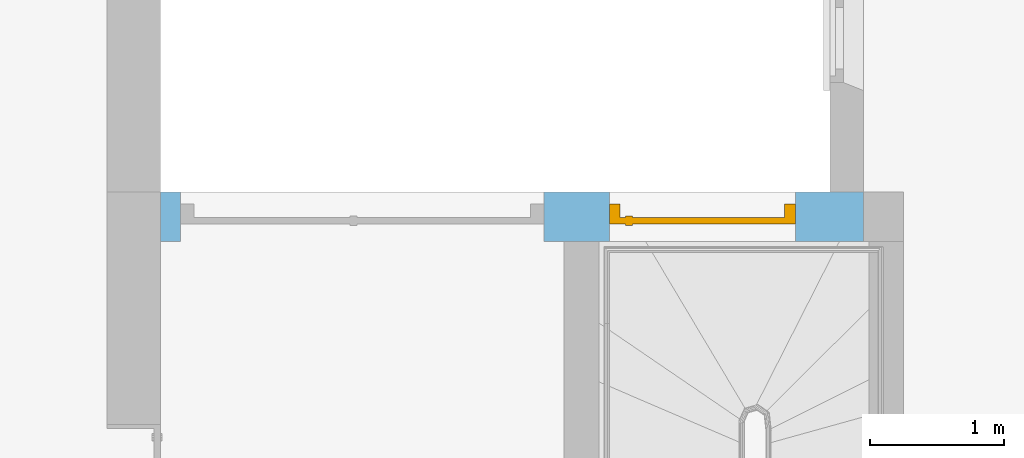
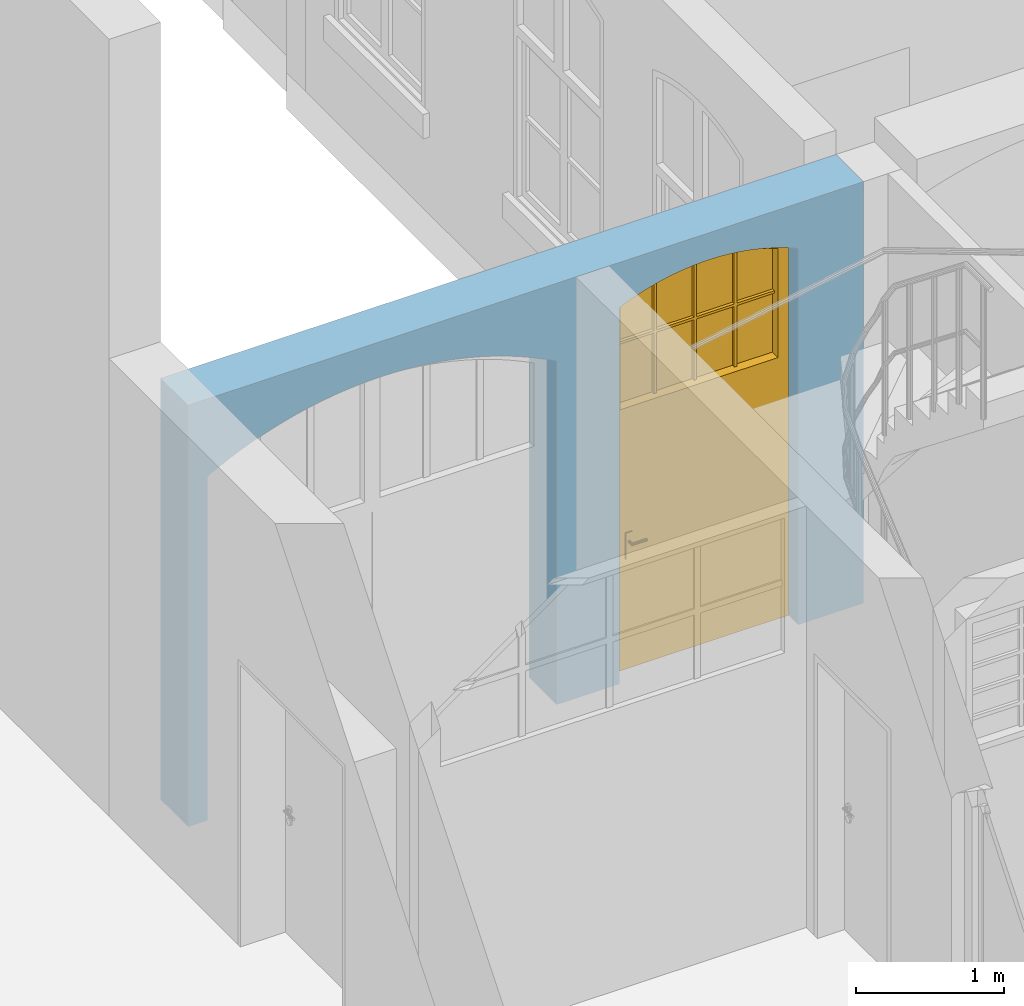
"""IFC4 building model written with IfcOpenShell, lengths in metres."""

from ifc_helpers import new_model, entity, si_unit, converted_unit, derived_unit, frame, frame_2d, origin, origin_with_axes, place, context, subcontext, project, spatial, polyline, rectangle, outline, extrude, closed_shell, open_shell, surface_model, source, transform, mapped, material, layer, layer_set, layer_usage, type_object, element, fill, save


model = new_model("IFC4")

# Units and contexts
model_context = context("Model", 3, precision=1e-05, world=origin())
body_context = subcontext(model_context, "Body", "Model", "MODEL_VIEW")
ifc_project = project(units=[si_unit("LENGTHUNIT", "METRE"), si_unit("AREAUNIT", "SQUARE_METRE"), si_unit("VOLUMEUNIT", "CUBIC_METRE"), si_unit("MASSUNIT", "GRAM", prefix="KILO"), converted_unit("PLANEANGLEUNIT", "DEGREE", entity("IfcPlaneAngleMeasure", 0.0174532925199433), si_unit("PLANEANGLEUNIT", "RADIAN"), dimensions=[0, 0, 0, 0, 0, 0, 0]), derived_unit("THERMALTRANSMITTANCEUNIT", [(si_unit("POWERUNIT", "WATT"), 1), (si_unit("THERMODYNAMICTEMPERATUREUNIT", "KELVIN"), -1), (si_unit("LENGTHUNIT", "METRE"), -2)]), derived_unit("VOLUMETRICFLOWRATEUNIT", [(si_unit("LENGTHUNIT", "METRE"), 3), (converted_unit("TIMEUNIT", "hour", entity("IfcTimeMeasure", 3600.0), si_unit("TIMEUNIT", "SECOND"), dimensions=[0, 0, 1, 0, 0, 0, 0]), -1), (si_unit("LENGTHUNIT", "METRE"), -1)])], contexts=[model_context])

# Building, storeys
building_placement = place(None, origin())
building = spatial("IfcBuilding", under=ifc_project, at=building_placement, Name="Bestandsgebäude A - Sporthalle / Wohnhaus (TB 100-499)   ANPASSEN !!!", CompositionType="ELEMENT")
storey_1_placement = place(building_placement, origin())
storey_1 = spatial("IfcBuildingStorey", under=building, at=storey_1_placement, Name="Geb. A Erdgeschoss (TB 200-249)", CompositionType="ELEMENT", Elevation=0.0)
storey_2_placement = place(storey_1_placement, origin())
storey_2 = spatial("IfcBuildingStorey", under=storey_1, at=storey_2_placement, Name="Architektur (TB 200-209)", CompositionType="PARTIAL")

# Wall, openings, door
ifc_material = material(Name="concrete")
ifc_layer = layer(ifc_material, 0.37)
ifc_layer_set = layer_set([ifc_layer])
ifc_layer_usage = layer_usage(ifc_layer_set, "AXIS2", "POSITIVE", 0.0)
wall_placement = place(storey_2_placement, frame((-3.24000000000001, 9.25, 0.0), z_axis=(0.0, 0.0, 1.0), x_axis=(-1.0, 0.0, 0.0)))
wall = element("IfcWall", 1, at=wall_placement, inside=storey_2, material=ifc_layer_usage, Name="reinforced - bearing", PredefinedType="USERDEFINED", context=body_context, shape_type="SweptSolid", body=[
    extrude(rectangle(XDim=5.25999999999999, YDim=0.37, at=frame_2d((2.62999999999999, 0.185), x_axis=(1.0, 0.0))), origin_with_axes(), (0.0, 0.0, 1.0), 3.47),
])
opening_1_placement = place(wall_placement, frame((0.509999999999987, 0.0, 0.0), z_axis=(0.0, 1.0, 0.0), x_axis=(0.0, 0.0, 1.0)))
opening_1 = element("IfcOpeningElement", 2, at=opening_1_placement, cuts=wall, Name="Door opening", PredefinedType="OPENING", context=body_context, shape_type="SweptSolid", body=[
    extrude(outline(polyline([(3.1, 1.39), (3.11907870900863, 1.34621900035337), (3.13690907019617, 1.30191492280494), (3.15347676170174, 1.25712335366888), (3.16876847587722, 1.21188027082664), (3.18277192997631, 1.16622201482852), (3.19547587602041, 1.12018525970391), (3.20687010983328, 1.0738069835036), (3.21694547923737, 1.02712443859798), (3.2256938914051, 0.98017512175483), (3.23310831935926, 0.932996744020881), (3.23918280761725, 0.885627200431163), (3.24391247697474, 0.838104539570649), (3.24729352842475, 0.79046693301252), (3.24932324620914, 0.742752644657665), (3.25, 0.695), (3.24932324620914, 0.647247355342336), (3.24729352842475, 0.59953306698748), (3.24391247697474, 0.551895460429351), (3.23918280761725, 0.504372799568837), (3.23310831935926, 0.45700325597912), (3.2256938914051, 0.40982487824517), (3.21694547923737, 0.362875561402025), (3.20687010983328, 0.316193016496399), (3.19547587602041, 0.269814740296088), (3.18277192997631, 0.223777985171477), (3.16876847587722, 0.178119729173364), (3.15347676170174, 0.132876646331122), (3.13690907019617, 0.0880850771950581), (3.11907870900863, 0.0437809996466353), (3.1, 0.0), (0.0, 0.0), (0.0, 1.39), (3.1, 1.39)])), origin_with_axes(), (0.0, 0.0, 1.0), 0.37),
])
opening_2_placement = place(wall_placement, frame((2.38999999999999, 0.0, 0.0), z_axis=(0.0, 1.0, 0.0), x_axis=(0.0, 0.0, 1.0)))
element("IfcOpeningElement", 3, at=opening_2_placement, cuts=wall, Name="Door opening", PredefinedType="OPENING", context=body_context, shape_type="SweptSolid", body=[
    extrude(outline(polyline([(2.83, 2.72), (2.87427557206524, 2.63638501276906), (2.9157185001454, 2.55133046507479), (2.95428204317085, 2.46493228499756), (2.989922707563, 2.37728791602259), (3.02260029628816, 2.28849620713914), (3.05227795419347, 2.19865730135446), (3.07892220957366, 2.1078725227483), (3.10250301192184, 2.0162442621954), (3.12299376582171, 1.92387586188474), (3.14037136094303, 1.83087149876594), (3.15461619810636, 1.73733606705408), (3.16571221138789, 1.64337505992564), (3.1736468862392, 1.54909445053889), (3.17841127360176, 1.45460057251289), (3.18, 1.36), (3.17841127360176, 1.26539942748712), (3.1736468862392, 1.17090554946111), (3.16571221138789, 1.07662494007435), (3.15461619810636, 0.982663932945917), (3.14037136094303, 0.889128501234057), (3.12299376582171, 0.796124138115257), (3.10250301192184, 0.703755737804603), (3.07892220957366, 0.612127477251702), (3.05227795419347, 0.521342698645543), (3.02260029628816, 0.431503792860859), (2.989922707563, 0.342712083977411), (2.95428204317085, 0.255067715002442), (2.9157185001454, 0.168669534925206), (2.87427557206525, 0.0836149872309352), (2.83, 0.0), (0.0, 0.0), (0.0, 2.72), (2.83, 2.72)])), origin_with_axes(), (0.0, 0.0, 1.0), 0.37),
])
door_type = type_object("IfcDoorType", Name="1l white blockframe", OperationType="SINGLE_SWING_LEFT", ParameterTakesPrecedence=False, PredefinedType="DOOR")
shared_shape = source(origin_with_axes(), body_context, "Body", "SurfaceModel", [
    surface_model("IfcShellBasedSurfaceModel", [(0.0437809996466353, 0.15, 3.11907870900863), (0.0, 0.15, 3.1), (0.0, 0.15, 0.0), (0.08, 0.15, 0.0), (0.08, 0.15, 3.04741945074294), (0.116901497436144, 0.15, 3.06227061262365), (0.159566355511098, 0.15, 3.07805166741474), (0.202661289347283, 0.15, 3.09261732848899), (0.246151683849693, 0.15, 3.10595589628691), (0.290002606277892, 0.15, 3.11805665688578), (0.334178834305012, 0.15, 3.12890989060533), (0.37864488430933, 0.15, 3.13850687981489), (0.42336503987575, 0.15, 3.14683991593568), (0.468303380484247, 0.15, 3.1539023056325), (0.513423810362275, 0.15, 3.15968837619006), (0.558690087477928, 0.15, 3.16419348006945), (0.604065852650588, 0.15, 3.16741399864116), (0.649514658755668, 0.15, 3.1693473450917), (0.695, 0.15, 3.16999196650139), (0.740485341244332, 0.15, 3.1693473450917), (0.785934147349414, 0.15, 3.16741399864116), (0.831309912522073, 0.15, 3.16419348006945), (0.876576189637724, 0.15, 3.15968837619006), (0.921696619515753, 0.15, 3.1539023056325), (0.966634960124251, 0.15, 3.14683991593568), (1.01135511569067, 0.15, 3.13850687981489), (1.05582116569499, 0.15, 3.12890989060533), (1.09999739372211, 0.15, 3.11805665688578), (1.14384831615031, 0.15, 3.10595589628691), (1.18733871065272, 0.15, 3.09261732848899), (1.2304336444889, 0.15, 3.07805166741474), (1.27309850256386, 0.15, 3.06227061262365), (1.31, 0.15, 3.04741945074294), (1.31, 0.15, 0.0), (1.39, 0.15, 0.0), (1.39, 0.15, 3.1), (1.34621900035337, 0.15, 3.11907870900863), (1.30191492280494, 0.15, 3.13690907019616), (1.25712335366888, 0.15, 3.15347676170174), (1.21188027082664, 0.15, 3.16876847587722), (1.16622201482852, 0.15, 3.18277192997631), (1.12018525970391, 0.15, 3.19547587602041), (1.0738069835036, 0.15, 3.20687010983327), (1.02712443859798, 0.15, 3.21694547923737), (0.980175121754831, 0.15, 3.2256938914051), (0.93299674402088, 0.15, 3.23310831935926), (0.885627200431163, 0.15, 3.23918280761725), (0.83810453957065, 0.15, 3.24391247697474), (0.790466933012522, 0.15, 3.24729352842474), (0.742752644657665, 0.15, 3.24932324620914), (0.695, 0.15, 3.25), (0.647247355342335, 0.15, 3.24932324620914), (0.599533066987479, 0.15, 3.24729352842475), (0.551895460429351, 0.15, 3.24391247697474), (0.504372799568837, 0.15, 3.23918280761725), (0.457003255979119, 0.15, 3.23310831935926), (0.40982487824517, 0.15, 3.2256938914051), (0.362875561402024, 0.15, 3.21694547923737), (0.316193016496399, 0.15, 3.20687010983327), (0.269814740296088, 0.15, 3.19547587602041), (0.223777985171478, 0.15, 3.18277192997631), (0.178119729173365, 0.15, 3.16876847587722), (0.132876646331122, 0.15, 3.15347676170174), (0.0880850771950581, 0.15, 3.13690907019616), (0.0, 0.0, 3.1), (0.0437809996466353, 0.0, 3.11907870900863), (0.0880850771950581, 0.0, 3.13690907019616), (0.132876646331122, 0.0, 3.15347676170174), (0.178119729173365, 0.0, 3.16876847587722), (0.223777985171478, 0.0, 3.18277192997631), (0.269814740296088, 0.0, 3.19547587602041), (0.316193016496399, 0.0, 3.20687010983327), (0.362875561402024, 0.0, 3.21694547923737), (0.40982487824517, 0.0, 3.2256938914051), (0.457003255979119, 0.0, 3.23310831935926), (0.504372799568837, 0.0, 3.23918280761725), (0.551895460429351, 0.0, 3.24391247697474), (0.599533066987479, 0.0, 3.24729352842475), (0.647247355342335, 0.0, 3.24932324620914), (0.695, 0.0, 3.25), (0.742752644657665, 0.0, 3.24932324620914), (0.790466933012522, 0.0, 3.24729352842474), (0.83810453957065, 0.0, 3.24391247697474), (0.885627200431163, 0.0, 3.23918280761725), (0.93299674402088, 0.0, 3.23310831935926), (0.980175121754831, 0.0, 3.2256938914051), (1.02712443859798, 0.0, 3.21694547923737), (1.0738069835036, 0.0, 3.20687010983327), (1.12018525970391, 0.0, 3.19547587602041), (1.16622201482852, 0.0, 3.18277192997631), (1.21188027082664, 0.0, 3.16876847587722), (1.25712335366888, 0.0, 3.15347676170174), (1.30191492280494, 0.0, 3.13690907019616), (1.34621900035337, 0.0, 3.11907870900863), (1.39, 0.0, 3.1), (1.39, 0.0, 0.0), (1.31, 0.0, 0.0), (1.31, 0.0, 3.04741945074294), (1.27309850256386, 0.0, 3.06227061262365), (1.2304336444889, 0.0, 3.07805166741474), (1.18733871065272, 0.0, 3.09261732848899), (1.14384831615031, 0.0, 3.10595589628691), (1.09999739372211, 0.0, 3.11805665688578), (1.05582116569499, 0.0, 3.12890989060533), (1.01135511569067, 0.0, 3.13850687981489), (0.966634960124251, 0.0, 3.14683991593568), (0.921696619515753, 0.0, 3.1539023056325), (0.876576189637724, 0.0, 3.15968837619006), (0.831309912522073, 0.0, 3.16419348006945), (0.785934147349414, 0.0, 3.16741399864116), (0.740485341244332, 0.0, 3.1693473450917), (0.695, 0.0, 3.16999196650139), (0.649514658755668, 0.0, 3.1693473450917), (0.604065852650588, 0.0, 3.16741399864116), (0.558690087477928, 0.0, 3.16419348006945), (0.513423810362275, 0.0, 3.15968837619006), (0.468303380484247, 0.0, 3.1539023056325), (0.42336503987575, 0.0, 3.14683991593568), (0.37864488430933, 0.0, 3.13850687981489), (0.334178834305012, 0.0, 3.12890989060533), (0.290002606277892, 0.0, 3.11805665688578), (0.246151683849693, 0.0, 3.10595589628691), (0.202661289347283, 0.0, 3.09261732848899), (0.159566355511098, 0.0, 3.07805166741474), (0.116901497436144, 0.0, 3.06227061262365), (0.08, 0.0, 3.04741945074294), (0.08, 0.0, 0.0), (0.0, 0.0, 0.0)], [closed_shell([[[0, 1, 2, 3, 4, 5, 6, 7, 8, 9, 10, 11, 12, 13, 14, 15, 16, 17, 18, 19, 20, 21, 22, 23, 24, 25, 26, 27, 28, 29, 30, 31, 32, 33, 34, 35, 36, 37, 38, 39, 40, 41, 42, 43, 44, 45, 46, 47, 48, 49, 50, 51, 52, 53, 54, 55, 56, 57, 58, 59, 60, 61, 62, 63]], [[64, 65, 66, 67, 68, 69, 70, 71, 72, 73, 74, 75, 76, 77, 78, 79, 80, 81, 82, 83, 84, 85, 86, 87, 88, 89, 90, 91, 92, 93, 94, 95, 96, 97, 98, 99, 100, 101, 102, 103, 104, 105, 106, 107, 108, 109, 110, 111, 112, 113, 114, 115, 116, 117, 118, 119, 120, 121, 122, 123, 124, 125, 126, 127]], [[1, 0, 65, 64]], [[2, 1, 64, 127]], [[34, 33, 96, 95]], [[126, 3, 2, 127]], [[35, 34, 95, 94]], [[36, 35, 94, 93]], [[37, 36, 93, 92]], [[38, 37, 92, 91]], [[39, 38, 91, 90]], [[40, 39, 90, 89]], [[41, 40, 89, 88]], [[42, 41, 88, 87]], [[43, 42, 87, 86]], [[44, 43, 86, 85]], [[45, 44, 85, 84]], [[46, 45, 84, 83]], [[47, 46, 83, 82]], [[48, 47, 82, 81]], [[49, 48, 81, 80]], [[50, 49, 80, 79]], [[51, 50, 79, 78]], [[52, 51, 78, 77]], [[53, 52, 77, 76]], [[54, 53, 76, 75]], [[55, 54, 75, 74]], [[56, 55, 74, 73]], [[57, 56, 73, 72]], [[58, 57, 72, 71]], [[59, 58, 71, 70]], [[60, 59, 70, 69]], [[61, 60, 69, 68]], [[62, 61, 68, 67]], [[63, 62, 67, 66]], [[0, 63, 66, 65]], [[4, 125, 124, 5]], [[3, 126, 125, 4]], [[32, 97, 96, 33]], [[31, 98, 97, 32]], [[30, 99, 98, 31]], [[29, 100, 99, 30]], [[28, 101, 100, 29]], [[27, 102, 101, 28]], [[26, 103, 102, 27]], [[25, 104, 103, 26]], [[24, 105, 104, 25]], [[23, 106, 105, 24]], [[22, 107, 106, 23]], [[21, 108, 107, 22]], [[20, 109, 108, 21]], [[19, 110, 109, 20]], [[18, 111, 110, 19]], [[17, 112, 111, 18]], [[16, 113, 112, 17]], [[15, 114, 113, 16]], [[14, 115, 114, 15]], [[13, 116, 115, 14]], [[12, 117, 116, 13]], [[11, 118, 117, 12]], [[10, 119, 118, 11]], [[9, 120, 119, 10]], [[8, 121, 120, 9]], [[7, 122, 121, 8]], [[6, 123, 122, 7]], [[5, 124, 123, 6]]], orient=[[False], [False], [False], [False], [False], [False], [False], [False], [False], [False], [False], [False], [False], [False], [False], [False], [False], [False], [False], [False], [False], [False], [False], [False], [False], [False], [False], [False], [False], [False], [False], [False], [False], [False], [False], [False], [False], [False], [False], [False], [False], [False], [False], [False], [False], [False], [False], [False], [False], [False], [False], [False], [False], [False], [False], [False], [False], [False], [False], [False], [False], [False], [False], [False], [False], [False]])]),
    surface_model("IfcShellBasedSurfaceModel", [(0.08, 0.15, 2.15000000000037), (0.08, 0.15, 1.95000000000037), (1.31, 0.15, 1.95000000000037), (1.31, 0.15, 2.15000000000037), (0.08, 0.0, 1.95000000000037), (0.08, 0.0, 2.15000000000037), (1.31, 0.0, 2.15000000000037), (1.31, 0.0, 1.95000000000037)], [closed_shell([[[0, 1, 2, 3]], [[4, 5, 6, 7]], [[1, 0, 5, 4]], [[2, 1, 4, 7]], [[3, 2, 7, 6]], [[0, 3, 6, 5]]], orient=[[False], [False], [False], [False], [False], [False]])]),
    surface_model("IfcShellBasedSurfaceModel", [(1.31, 0.15, 1.95000000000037), (0.08, 0.15, 1.95000000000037), (0.08, 0.15, 0.0), (1.31, 0.15, 0.0), (0.08, 0.1, 1.95000000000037), (1.31, 0.1, 1.95000000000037), (1.31, 0.1, 0.0), (0.08, 0.1, 0.0)], [closed_shell([[[0, 1, 2, 3]], [[4, 5, 6, 7]], [[1, 0, 5, 4]], [[2, 1, 4, 7]], [[3, 2, 7, 6]], [[0, 3, 6, 5]]], orient=[[False], [False], [False], [False], [False], [False]])]),
    surface_model("IfcShellBasedSurfaceModel", [(1.22, 0.1, 1.125), (1.22, 0.1, 0.91), (1.27, 0.1, 0.91), (1.27, 0.1, 1.125), (1.22, 0.09, 0.91), (1.22, 0.09, 1.125), (1.27, 0.09, 1.125), (1.27, 0.09, 0.91)], [closed_shell([[[0, 1, 2, 3]], [[4, 5, 6, 7]], [[1, 0, 5, 4]], [[2, 1, 4, 7]], [[3, 2, 7, 6]], [[0, 3, 6, 5]]], orient=[[False], [False], [False], [False], [False], [False]])]),
    surface_model("IfcShellBasedSurfaceModel", [(1.245, 0.09, 1.06), (1.24, 0.09, 1.05866025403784), (1.23633974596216, 0.09, 1.055), (1.235, 0.09, 1.05), (1.23633974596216, 0.09, 1.045), (1.24, 0.09, 1.04133974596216), (1.245, 0.09, 1.04), (1.25, 0.09, 1.04133974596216), (1.25366025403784, 0.09, 1.045), (1.255, 0.09, 1.05), (1.25366025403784, 0.09, 1.055), (1.25, 0.09, 1.05866025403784), (1.25, 0.045, 1.05866025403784), (1.245, 0.05, 1.06), (1.25366025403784, 0.0413397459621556, 1.055), (1.255, 0.04, 1.05), (1.25366025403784, 0.0413397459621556, 1.045), (1.25, 0.045, 1.04133974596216), (1.245, 0.05, 1.04), (1.24, 0.055, 1.04133974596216), (1.23633974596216, 0.0586602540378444, 1.045), (1.235, 0.06, 1.05), (1.23633974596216, 0.0586602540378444, 1.055), (1.24, 0.055, 1.05866025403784), (1.13, 0.05, 1.06), (1.13, 0.045, 1.05866025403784), (1.13, 0.0413397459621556, 1.055), (1.13, 0.04, 1.05), (1.13, 0.0413397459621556, 1.045), (1.13, 0.045, 1.04133974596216), (1.13, 0.05, 1.04), (1.13, 0.055, 1.04133974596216), (1.13, 0.0586602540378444, 1.045), (1.13, 0.06, 1.05), (1.13, 0.0586602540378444, 1.055), (1.13, 0.055, 1.05866025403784)], [closed_shell([[[0, 1, 2, 3, 4, 5, 6, 7, 8, 9, 10, 11]], [[0, 11, 12, 13]], [[11, 10, 14, 12]], [[10, 9, 15, 14]], [[9, 8, 16, 15]], [[8, 7, 17, 16]], [[7, 6, 18, 17]], [[6, 5, 19, 18]], [[5, 4, 20, 19]], [[4, 3, 21, 20]], [[3, 2, 22, 21]], [[2, 1, 23, 22]], [[1, 0, 13, 23]], [[24, 25, 26, 27, 28, 29, 30, 31, 32, 33, 34, 35]], [[13, 12, 25, 24]], [[12, 14, 26, 25]], [[14, 15, 27, 26]], [[15, 16, 28, 27]], [[16, 17, 29, 28]], [[17, 18, 30, 29]], [[18, 19, 31, 30]], [[19, 20, 32, 31]], [[20, 21, 33, 32]], [[21, 22, 34, 33]], [[22, 23, 35, 34]], [[23, 13, 24, 35]]], orient=[[False], [False], [False], [False], [False], [False], [False], [False], [False], [False], [False], [False], [False], [False], [False], [False], [False], [False], [False], [False], [False], [False], [False], [False], [False], [False]])]),
    surface_model("IfcShellBasedSurfaceModel", [(1.22, 0.15, 1.125), (1.27, 0.15, 1.125), (1.27, 0.15, 0.91), (1.22, 0.15, 0.91), (1.22, 0.16, 0.91), (1.27, 0.16, 0.91), (1.27, 0.16, 1.125), (1.22, 0.16, 1.125)], [closed_shell([[[0, 1, 2, 3]], [[4, 5, 6, 7]], [[3, 4, 7, 0]], [[2, 5, 4, 3]], [[1, 6, 5, 2]], [[0, 7, 6, 1]]], orient=[[False], [False], [False], [False], [False], [False]])]),
    surface_model("IfcShellBasedSurfaceModel", [(1.245, 0.16, 1.06), (1.25, 0.16, 1.05866025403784), (1.25366025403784, 0.16, 1.055), (1.255, 0.16, 1.05), (1.25366025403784, 0.16, 1.045), (1.25, 0.16, 1.04133974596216), (1.245, 0.16, 1.04), (1.24, 0.16, 1.04133974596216), (1.23633974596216, 0.16, 1.045), (1.235, 0.16, 1.05), (1.23633974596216, 0.16, 1.055), (1.24, 0.16, 1.05866025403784), (1.245, 0.2, 1.06), (1.25, 0.205, 1.05866025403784), (1.25366025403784, 0.208660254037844, 1.055), (1.255, 0.21, 1.05), (1.25366025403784, 0.208660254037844, 1.045), (1.25, 0.205, 1.04133974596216), (1.245, 0.2, 1.04), (1.24, 0.195, 1.04133974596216), (1.23633974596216, 0.191339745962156, 1.045), (1.235, 0.19, 1.05), (1.23633974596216, 0.191339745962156, 1.055), (1.24, 0.195, 1.05866025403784), (1.13, 0.2, 1.06), (1.13, 0.195, 1.05866025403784), (1.13, 0.191339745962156, 1.055), (1.13, 0.19, 1.05), (1.13, 0.191339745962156, 1.045), (1.13, 0.195, 1.04133974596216), (1.13, 0.2, 1.04), (1.13, 0.205, 1.04133974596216), (1.13, 0.208660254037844, 1.045), (1.13, 0.21, 1.05), (1.13, 0.208660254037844, 1.055), (1.13, 0.205, 1.05866025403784)], [closed_shell([[[0, 1, 2, 3, 4, 5, 6, 7, 8, 9, 10, 11]], [[0, 12, 13, 1]], [[1, 13, 14, 2]], [[2, 14, 15, 3]], [[3, 15, 16, 4]], [[4, 16, 17, 5]], [[5, 17, 18, 6]], [[6, 18, 19, 7]], [[7, 19, 20, 8]], [[8, 20, 21, 9]], [[9, 21, 22, 10]], [[10, 22, 23, 11]], [[11, 23, 12, 0]], [[24, 25, 26, 27, 28, 29, 30, 31, 32, 33, 34, 35]], [[12, 24, 35, 13]], [[13, 35, 34, 14]], [[14, 34, 33, 15]], [[15, 33, 32, 16]], [[16, 32, 31, 17]], [[17, 31, 30, 18]], [[18, 30, 29, 19]], [[19, 29, 28, 20]], [[20, 28, 27, 21]], [[21, 27, 26, 22]], [[22, 26, 25, 23]], [[23, 25, 24, 12]]], orient=[[False], [False], [False], [False], [False], [False], [False], [False], [False], [False], [False], [False], [False], [False], [False], [False], [False], [False], [False], [False], [False], [False], [False], [False], [False], [False]])]),
    surface_model("IfcShellBasedSurfaceModel", [(0.3725, 0.1, 3.13718064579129), (0.3725, 0.1, 2.15000000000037), (0.3925, 0.1, 2.15000000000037), (0.3925, 0.1, 3.14108860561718), (0.37864488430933, 0.1, 3.13850687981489), (0.3725, 0.05, 2.15000000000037), (0.3725, 0.05, 3.13718064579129), (0.37864488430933, 0.05, 3.13850687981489), (0.3925, 0.05, 3.14108860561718), (0.3925, 0.05, 2.15000000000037)], [closed_shell([[[0, 1, 2, 3, 4]], [[5, 6, 7, 8, 9]], [[1, 0, 6, 5]], [[2, 1, 5, 9]], [[3, 2, 9, 8]], [[4, 3, 8, 7]], [[0, 4, 7, 6]]], orient=[[False], [False], [False], [False], [False], [False], [False]])]),
    surface_model("IfcShellBasedSurfaceModel", [(0.685, 0.1, 3.16985024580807), (0.685, 0.1, 2.15000000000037), (0.705, 0.1, 2.15000000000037), (0.705, 0.1, 3.16985024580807), (0.695, 0.1, 3.16999196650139), (0.685, 0.05, 2.15000000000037), (0.685, 0.05, 3.16985024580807), (0.695, 0.05, 3.16999196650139), (0.705, 0.05, 3.16985024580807), (0.705, 0.05, 2.15000000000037)], [closed_shell([[[0, 1, 2, 3, 4]], [[5, 6, 7, 8, 9]], [[1, 0, 6, 5]], [[2, 1, 5, 9]], [[3, 2, 9, 8]], [[4, 3, 8, 7]], [[0, 4, 7, 6]]], orient=[[False], [False], [False], [False], [False], [False], [False]])]),
    surface_model("IfcShellBasedSurfaceModel", [(0.9975, 0.1, 3.14108860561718), (0.9975, 0.1, 2.15000000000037), (1.0175, 0.1, 2.15000000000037), (1.0175, 0.1, 3.13718064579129), (1.01135511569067, 0.1, 3.13850687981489), (0.9975, 0.05, 2.15000000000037), (0.9975, 0.05, 3.14108860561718), (1.01135511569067, 0.05, 3.13850687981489), (1.0175, 0.05, 3.13718064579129), (1.0175, 0.05, 2.15000000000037)], [closed_shell([[[0, 1, 2, 3, 4]], [[5, 6, 7, 8, 9]], [[1, 0, 6, 5]], [[2, 1, 5, 9]], [[3, 2, 9, 8]], [[4, 3, 8, 7]], [[0, 4, 7, 6]]], orient=[[False], [False], [False], [False], [False], [False], [False]])]),
    surface_model("IfcShellBasedSurfaceModel", [(0.08, 0.1, 2.66992512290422), (0.08, 0.1, 2.64992512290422), (0.3725, 0.1, 2.64992512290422), (0.3725, 0.1, 2.66992512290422), (0.08, 0.05, 2.64992512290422), (0.08, 0.05, 2.66992512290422), (0.3725, 0.05, 2.66992512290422), (0.3725, 0.05, 2.64992512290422)], [closed_shell([[[0, 1, 2, 3]], [[4, 5, 6, 7]], [[1, 0, 5, 4]], [[2, 1, 4, 7]], [[3, 2, 7, 6]], [[0, 3, 6, 5]]], orient=[[False], [False], [False], [False], [False], [False]])]),
    surface_model("IfcShellBasedSurfaceModel", [(0.3925, 0.1, 2.66992512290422), (0.3925, 0.1, 2.64992512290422), (0.685, 0.1, 2.64992512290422), (0.685, 0.1, 2.66992512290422), (0.3925, 0.05, 2.64992512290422), (0.3925, 0.05, 2.66992512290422), (0.685, 0.05, 2.66992512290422), (0.685, 0.05, 2.64992512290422)], [closed_shell([[[0, 1, 2, 3]], [[4, 5, 6, 7]], [[1, 0, 5, 4]], [[2, 1, 4, 7]], [[3, 2, 7, 6]], [[0, 3, 6, 5]]], orient=[[False], [False], [False], [False], [False], [False]])]),
    surface_model("IfcShellBasedSurfaceModel", [(0.705, 0.1, 2.66992512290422), (0.705, 0.1, 2.64992512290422), (0.9975, 0.1, 2.64992512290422), (0.9975, 0.1, 2.66992512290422), (0.705, 0.05, 2.64992512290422), (0.705, 0.05, 2.66992512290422), (0.9975, 0.05, 2.66992512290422), (0.9975, 0.05, 2.64992512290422)], [closed_shell([[[0, 1, 2, 3]], [[4, 5, 6, 7]], [[1, 0, 5, 4]], [[2, 1, 4, 7]], [[3, 2, 7, 6]], [[0, 3, 6, 5]]], orient=[[False], [False], [False], [False], [False], [False]])]),
    surface_model("IfcShellBasedSurfaceModel", [(1.0175, 0.1, 2.66992512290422), (1.0175, 0.1, 2.64992512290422), (1.31, 0.1, 2.64992512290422), (1.31, 0.1, 2.66992512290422), (1.0175, 0.05, 2.64992512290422), (1.0175, 0.05, 2.66992512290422), (1.31, 0.05, 2.66992512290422), (1.31, 0.05, 2.64992512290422)], [closed_shell([[[0, 1, 2, 3]], [[4, 5, 6, 7]], [[1, 0, 5, 4]], [[2, 1, 4, 7]], [[3, 2, 7, 6]], [[0, 3, 6, 5]]], orient=[[False], [False], [False], [False], [False], [False]])]),
    surface_model("IfcShellBasedSurfaceModel", [(0.08, 0.075, 2.64992512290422), (0.08, 0.075, 2.15000000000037), (0.3725, 0.075, 2.15000000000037), (0.3725, 0.075, 2.64992512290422)], [open_shell([[[0, 1, 2, 3]]], orient=[[False]])]),
    surface_model("IfcShellBasedSurfaceModel", [(0.116901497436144, 0.075, 3.06227061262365), (0.08, 0.075, 3.04741945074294), (0.08, 0.075, 2.66992512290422), (0.3725, 0.075, 2.66992512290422), (0.3725, 0.075, 3.13718064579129), (0.334178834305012, 0.075, 3.12890989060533), (0.290002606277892, 0.075, 3.11805665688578), (0.246151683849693, 0.075, 3.10595589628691), (0.202661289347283, 0.075, 3.09261732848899), (0.159566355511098, 0.075, 3.07805166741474)], [open_shell([[[0, 1, 2, 3, 4, 5, 6, 7, 8, 9]]], orient=[[False]])]),
    surface_model("IfcShellBasedSurfaceModel", [(0.3925, 0.075, 2.64992512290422), (0.3925, 0.075, 2.15000000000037), (0.685, 0.075, 2.15000000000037), (0.685, 0.075, 2.64992512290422)], [open_shell([[[0, 1, 2, 3]]], orient=[[False]])]),
    surface_model("IfcShellBasedSurfaceModel", [(0.42336503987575, 0.075, 3.14683991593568), (0.3925, 0.075, 3.14108860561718), (0.3925, 0.075, 2.66992512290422), (0.685, 0.075, 2.66992512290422), (0.685, 0.075, 3.16985024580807), (0.649514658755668, 0.075, 3.1693473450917), (0.604065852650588, 0.075, 3.16741399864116), (0.558690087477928, 0.075, 3.16419348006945), (0.513423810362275, 0.075, 3.15968837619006), (0.468303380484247, 0.075, 3.1539023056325)], [open_shell([[[0, 1, 2, 3, 4, 5, 6, 7, 8, 9]]], orient=[[False]])]),
    surface_model("IfcShellBasedSurfaceModel", [(0.705, 0.075, 2.64992512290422), (0.705, 0.075, 2.15000000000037), (0.9975, 0.075, 2.15000000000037), (0.9975, 0.075, 2.64992512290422)], [open_shell([[[0, 1, 2, 3]]], orient=[[False]])]),
    surface_model("IfcShellBasedSurfaceModel", [(0.740485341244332, 0.075, 3.1693473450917), (0.705, 0.075, 3.16985024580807), (0.705, 0.075, 2.66992512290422), (0.9975, 0.075, 2.66992512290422), (0.9975, 0.075, 3.14108860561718), (0.966634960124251, 0.075, 3.14683991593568), (0.921696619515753, 0.075, 3.1539023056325), (0.876576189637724, 0.075, 3.15968837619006), (0.831309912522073, 0.075, 3.16419348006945), (0.785934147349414, 0.075, 3.16741399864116)], [open_shell([[[0, 1, 2, 3, 4, 5, 6, 7, 8, 9]]], orient=[[False]])]),
    surface_model("IfcShellBasedSurfaceModel", [(1.0175, 0.075, 2.64992512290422), (1.0175, 0.075, 2.15000000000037), (1.31, 0.075, 2.15000000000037), (1.31, 0.075, 2.64992512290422)], [open_shell([[[0, 1, 2, 3]]], orient=[[False]])]),
    surface_model("IfcShellBasedSurfaceModel", [(1.05582116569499, 0.075, 3.12890989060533), (1.0175, 0.075, 3.13718064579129), (1.0175, 0.075, 2.66992512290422), (1.31, 0.075, 2.66992512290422), (1.31, 0.075, 3.04741945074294), (1.27309850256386, 0.075, 3.06227061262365), (1.2304336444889, 0.075, 3.07805166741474), (1.18733871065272, 0.075, 3.09261732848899), (1.14384831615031, 0.075, 3.10595589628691), (1.09999739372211, 0.075, 3.11805665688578)], [open_shell([[[0, 1, 2, 3, 4, 5, 6, 7, 8, 9]]], orient=[[False]])]),
])
door_placement = place(opening_1_placement, frame((0.0, 0.0, 0.09), z_axis=(1.0, 0.0, 0.0), x_axis=(0.0, 1.0, 0.0)))
door = element("IfcDoor", 4, at=door_placement, inside=storey_2, type_object=door_type, Name="1l white blockframe", OverallHeight=3.25, OverallWidth=1.39, context=body_context, shape_type="MappedRepresentation", body=[
    mapped(shared_shape, transform((0.0, 0.0, 0.0), x_axis=(1.0, 0.0, 0.0), y_axis=(0.0, 1.0, 0.0), z_axis=(0.0, 0.0, 1.0), scale=1.0)),
])
fill(opening_1, door)

save(model, "model.ifc")
